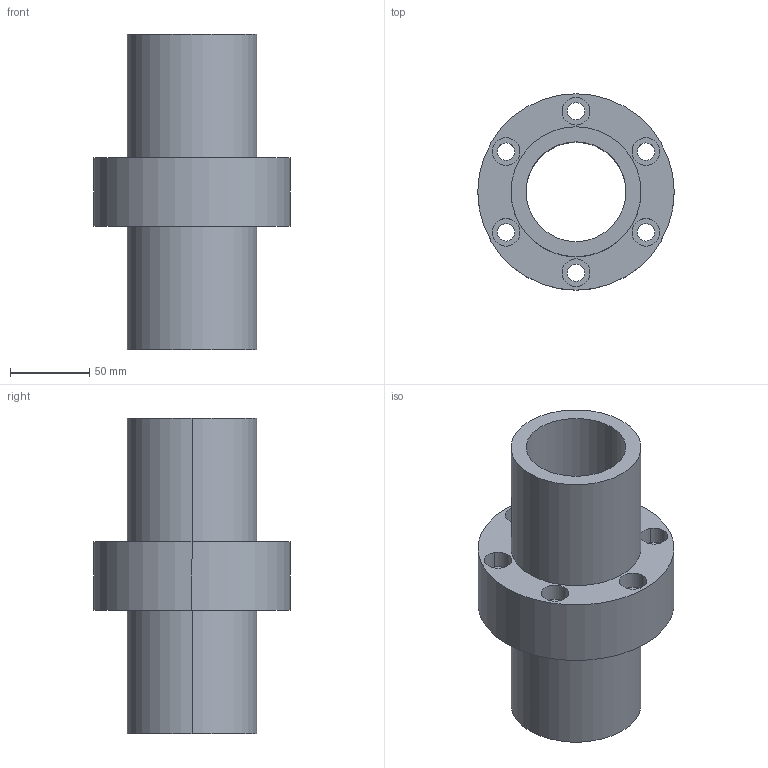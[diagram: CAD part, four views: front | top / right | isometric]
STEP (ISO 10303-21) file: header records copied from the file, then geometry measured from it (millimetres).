
FILE_DESCRIPTION((''),'2;1');
FILE_NAME('63-8T6','2008-04-07T',('yanyu'),(''),'PRO/ENGINEER BY PARAMETRIC TECHNOLOGY CORPORATION, 2005070','PRO/ENGINEER BY PARAMETRIC TECHNOLOGY CORPORATION, 2005070','');
FILE_SCHEMA(('CONFIG_CONTROL_DESIGN'));
Length unit declared in the file: millimetre
Products named in the file (1): 63-8T6
Bounding box: 124 x 124 x 199 mm (x, y, z)
Volume: 688665.8 mm3; surface area: 123365.6 mm2
Topology: 1 solids, 1 shells, 42 faces, 104 edges, 72 vertices
Faces by surface type: cylinder 32, plane 10
Entity records: 1370 total; most frequent: DIRECTION 260, CARTESIAN_POINT 218, ORIENTED_EDGE 208, AXIS2_PLACEMENT_3D 114, EDGE_CURVE 104, VERTEX_POINT 72, CIRCLE 72, EDGE_LOOP 64
